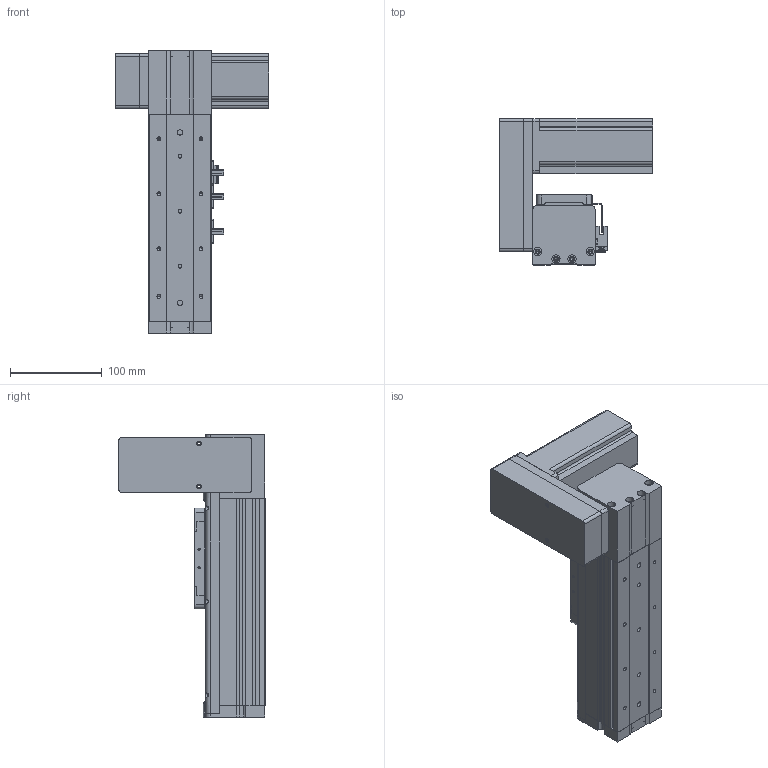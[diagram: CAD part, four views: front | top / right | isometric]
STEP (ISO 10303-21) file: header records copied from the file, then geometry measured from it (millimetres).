
FILE_DESCRIPTION (( 'STEP AP214' ), '1' );
FILE_NAME ('KSD68BS-S50-MRU-CR.STEP', '2019-08-28T05:51:29', ( '微软用户' ), ( '微软中国' ), 'SwSTEP 2.0', 'SolidWorks 2014', '' );
FILE_SCHEMA (( 'AUTOMOTIVE_DESIGN' ));
Length unit declared in the file: millimetre
Products named in the file (14): 68宽单导轨全封闭丝杆传动安装板1防护罩; KSD68BS 50行程侧板全封闭; 68宽单导轨全封闭同步带端板; 68单导轨全封闭同步带电机座右; 68单导轨全封闭同步带安装板; 68遵裔啣揤啣1; 悵誘欶奻狟殏; 68宽马达安装板连板上折同步带; 感应片68宽全封闭; U倰嫖萇EEㄜSX672; 台达ECMA－C20604AS伺服电机（400W); KSD68BS 50行程底板全封闭; KSD68BS-S50-MRU-CR; KSD68BS 50行程盖板全封闭
Assembly tree (17 placements, depth 2):
  KSD68BS-S50-MRU-CR
    KSD68BS 50行程底板全封闭
    台达ECMA－C20604AS伺服电机（400W)
    U倰嫖萇EEㄜSX672  x3
    感应片68宽全封闭
    68宽马达安装板连板上折同步带
    悵誘欶奻狟殏
    68单导轨全封闭同步带安装板
    68单导轨全封闭同步带电机座右
    68宽单导轨全封闭同步带端板
    KSD68BS 50行程侧板全封闭  x2
    68宽单导轨全封闭丝杆传动安装板1防护罩
    68遵裔啣揤啣1  x2
    KSD68BS 50行程盖板全封闭
Bounding box: 167.2 x 159.5 x 308.1 mm (x, y, z)
Volume: 1257235.7 mm3; surface area: 368312.6 mm2
Topology: 18 solids, 18 shells, 1350 faces, 3783 edges, 2435 vertices
Faces by surface type: plane 623, cylinder 599, cone 128
Entity records: 41274 total; most frequent: CARTESIAN_POINT 6877, DIRECTION 6271, ORIENTED_EDGE 6010, EDGE_CURVE 3005, AXIS2_PLACEMENT_3D 2219, VERTEX_POINT 1973, LINE 1833, VECTOR 1833
